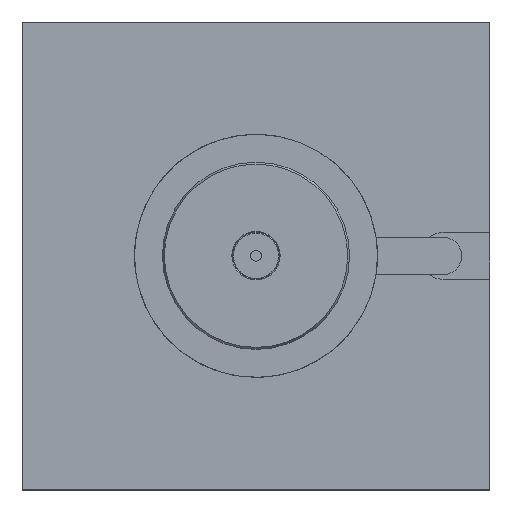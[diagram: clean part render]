
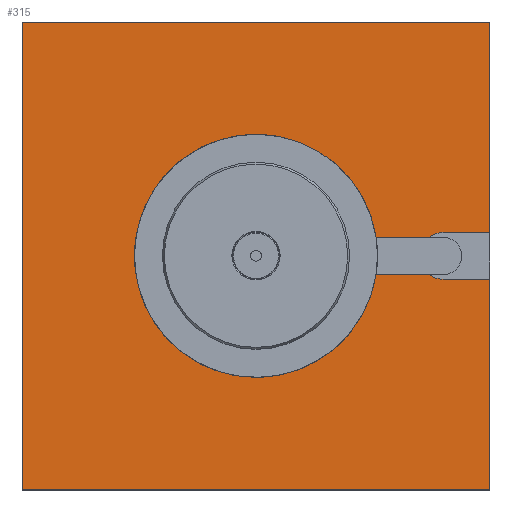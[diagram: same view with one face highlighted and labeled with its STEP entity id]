
A CAD part, top view. The second image highlights one B-rep face of the part: STEP entity #315.
In plain terms, the highlighted planar face has unit normal (0, 0, 1).
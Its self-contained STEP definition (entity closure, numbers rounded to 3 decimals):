
#315 = ADVANCED_FACE( '', ( #732 ), #733, .T. );
#732 = FACE_OUTER_BOUND( '', #1313, .T. );
#733 = PLANE( '', #1314 );
#1313 = EDGE_LOOP( '', ( #2126, #2127, #2128, #2129, #2130, #2131, #2132, #2133, #2134, #2135, #2136, #2137 ) );
#1314 = AXIS2_PLACEMENT_3D( '', #2138, #2139, #2140 );
#2126 = ORIENTED_EDGE( '', *, *, #2890, .F. );
#2127 = ORIENTED_EDGE( '', *, *, #3010, .F. );
#2128 = ORIENTED_EDGE( '', *, *, #3068, .F. );
#2129 = ORIENTED_EDGE( '', *, *, #2982, .F. );
#2130 = ORIENTED_EDGE( '', *, *, #2858, .T. );
#2131 = ORIENTED_EDGE( '', *, *, #2875, .T. );
#2132 = ORIENTED_EDGE( '', *, *, #2975, .T. );
#2133 = ORIENTED_EDGE( '', *, *, #2893, .T. );
#2134 = ORIENTED_EDGE( '', *, *, #2862, .T. );
#2135 = ORIENTED_EDGE( '', *, *, #3069, .F. );
#2136 = ORIENTED_EDGE( '', *, *, #3060, .F. );
#2137 = ORIENTED_EDGE( '', *, *, #3070, .F. );
#2138 = CARTESIAN_POINT( '', ( -125., -125., 2.5 ) );
#2139 = DIRECTION( '', ( 0., 0., 1. ) );
#2140 = DIRECTION( '', ( 0., -1., 0. ) );
#2858 = EDGE_CURVE( '', #3277, #3278, #3279, .T. );
#2862 = EDGE_CURVE( '', #3286, #3284, #3287, .T. );
#2875 = EDGE_CURVE( '', #3278, #3307, #3308, .T. );
#2890 = EDGE_CURVE( '', #3331, #3333, #3334, .T. );
#2893 = EDGE_CURVE( '', #3337, #3286, #3338, .T. );
#2975 = EDGE_CURVE( '', #3307, #3337, #3475, .T. );
#2982 = EDGE_CURVE( '', #3277, #3486, #3487, .T. );
#3010 = EDGE_CURVE( '', #3530, #3331, #3532, .T. );
#3060 = EDGE_CURVE( '', #3611, #3612, #3613, .T. );
#3068 = EDGE_CURVE( '', #3486, #3530, #3624, .T. );
#3069 = EDGE_CURVE( '', #3612, #3284, #3625, .T. );
#3070 = EDGE_CURVE( '', #3333, #3611, #3626, .T. );
#3277 = VERTEX_POINT( '', #3900 );
#3278 = VERTEX_POINT( '', #3901 );
#3279 = LINE( '', #3902, #3903 );
#3284 = VERTEX_POINT( '', #3910 );
#3286 = VERTEX_POINT( '', #3913 );
#3287 = LINE( '', #3914, #3915 );
#3307 = VERTEX_POINT( '', #3941 );
#3308 = LINE( '', #3942, #3943 );
#3331 = VERTEX_POINT( '', #3975 );
#3333 = VERTEX_POINT( '', #3978 );
#3334 = CIRCLE( '', #3979, 65. );
#3337 = VERTEX_POINT( '', #3983 );
#3338 = LINE( '', #3984, #3985 );
#3475 = LINE( '', #4157, #4158 );
#3486 = VERTEX_POINT( '', #4175 );
#3487 = LINE( '', #4176, #4177 );
#3530 = VERTEX_POINT( '', #4239 );
#3532 = LINE( '', #4242, #4243 );
#3611 = VERTEX_POINT( '', #4346 );
#3612 = VERTEX_POINT( '', #4347 );
#3613 = CIRCLE( '', #4348, 12.5 );
#3624 = CIRCLE( '', #4365, 12.5 );
#3625 = LINE( '', #4366, #4367 );
#3626 = LINE( '', #4368, #4369 );
#3900 = CARTESIAN_POINT( '', ( 125., 12.5, 2.5 ) );
#3901 = CARTESIAN_POINT( '', ( 125., 125., 2.5 ) );
#3902 = CARTESIAN_POINT( '', ( 125., -125., 2.5 ) );
#3903 = VECTOR( '', #4721, 1000. );
#3910 = CARTESIAN_POINT( '', ( 125., -12.5, 2.5 ) );
#3913 = CARTESIAN_POINT( '', ( 125., -125., 2.5 ) );
#3914 = CARTESIAN_POINT( '', ( 125., -125., 2.5 ) );
#3915 = VECTOR( '', #4725, 1000. );
#3941 = CARTESIAN_POINT( '', ( -125., 125., 2.5 ) );
#3942 = CARTESIAN_POINT( '', ( 125., 125., 2.5 ) );
#3943 = VECTOR( '', #4741, 1000. );
#3975 = CARTESIAN_POINT( '', ( 64.226, 10., 2.5 ) );
#3978 = CARTESIAN_POINT( '', ( 64.226, -10., 2.5 ) );
#3979 = AXIS2_PLACEMENT_3D( '', #4759, #4760, #4761 );
#3983 = CARTESIAN_POINT( '', ( -125., -125., 2.5 ) );
#3984 = CARTESIAN_POINT( '', ( -125., -125., 2.5 ) );
#3985 = VECTOR( '', #4763, 1000. );
#4157 = CARTESIAN_POINT( '', ( -125., 125., 2.5 ) );
#4158 = VECTOR( '', #4884, 1000. );
#4175 = CARTESIAN_POINT( '', ( 100., 12.5, 2.5 ) );
#4176 = CARTESIAN_POINT( '', ( 148.185, 12.5, 2.5 ) );
#4177 = VECTOR( '', #4888, 1000. );
#4239 = CARTESIAN_POINT( '', ( 92.5, 10., 2.5 ) );
#4242 = CARTESIAN_POINT( '', ( 100., 10., 2.5 ) );
#4243 = VECTOR( '', #4918, 1000. );
#4346 = CARTESIAN_POINT( '', ( 92.5, -10., 2.5 ) );
#4347 = CARTESIAN_POINT( '', ( 100., -12.5, 2.5 ) );
#4348 = AXIS2_PLACEMENT_3D( '', #4995, #4996, #4997 );
#4365 = AXIS2_PLACEMENT_3D( '', #5004, #5005, #5006 );
#4366 = CARTESIAN_POINT( '', ( 100., -12.5, 2.5 ) );
#4367 = VECTOR( '', #5007, 1000. );
#4368 = CARTESIAN_POINT( '', ( 0., -10., 2.5 ) );
#4369 = VECTOR( '', #5008, 1000. );
#4721 = DIRECTION( '', ( 0., 1., 0. ) );
#4725 = DIRECTION( '', ( 0., 1., 0. ) );
#4741 = DIRECTION( '', ( -1., 0., 0. ) );
#4759 = CARTESIAN_POINT( '', ( 0., 0., 2.5 ) );
#4760 = DIRECTION( '', ( 0., 0., 1. ) );
#4761 = DIRECTION( '', ( 1., 0., 0. ) );
#4763 = DIRECTION( '', ( 1., 0., 0. ) );
#4884 = DIRECTION( '', ( 0., -1., 0. ) );
#4888 = DIRECTION( '', ( -1., 0., 0. ) );
#4918 = DIRECTION( '', ( -1., 0., 0. ) );
#4995 = CARTESIAN_POINT( '', ( 100., 0., 2.5 ) );
#4996 = DIRECTION( '', ( 0., 0., 1. ) );
#4997 = DIRECTION( '', ( 0., 1., 0. ) );
#5004 = CARTESIAN_POINT( '', ( 100., 0., 2.5 ) );
#5005 = DIRECTION( '', ( 0., 0., 1. ) );
#5006 = DIRECTION( '', ( 0., 1., 0. ) );
#5007 = DIRECTION( '', ( 1., 0., 0. ) );
#5008 = DIRECTION( '', ( 1., 0., 0. ) );
